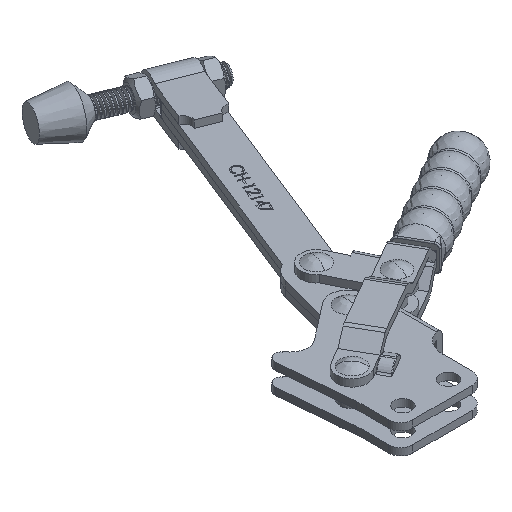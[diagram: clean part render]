
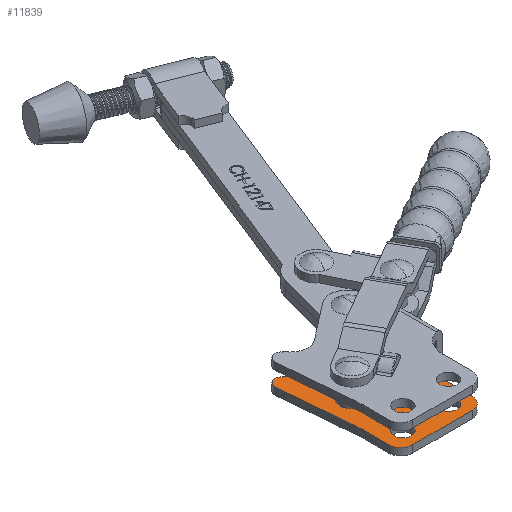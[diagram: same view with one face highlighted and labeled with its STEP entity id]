
A CAD part, isometric view. The second image highlights one B-rep face of the part: STEP entity #11839.
In plain terms, the highlighted planar face has unit normal (0, 0, 1).
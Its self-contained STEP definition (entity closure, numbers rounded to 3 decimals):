
#859=FACE_BOUND('',#2441,.T.);
#860=FACE_BOUND('',#2442,.T.);
#861=FACE_BOUND('',#2443,.T.);
#862=FACE_BOUND('',#2444,.T.);
#863=FACE_BOUND('',#2445,.T.);
#1128=PLANE('',#12845);
#1729=FACE_OUTER_BOUND('',#2440,.T.);
#2440=EDGE_LOOP('',(#10939,#10940,#10941,#10942,#10943,#10944,#10945,#10946,
#10947,#10948,#10949,#10950,#10951,#10952,#10953,#10954));
#2441=EDGE_LOOP('',(#10955,#10956));
#2442=EDGE_LOOP('',(#10957,#10958));
#2443=EDGE_LOOP('',(#10959,#10960));
#2444=EDGE_LOOP('',(#10961,#10962));
#2445=EDGE_LOOP('',(#10963,#10964));
#3369=LINE('',#40777,#4306);
#3378=LINE('',#40819,#4315);
#3382=LINE('',#40828,#4319);
#3384=LINE('',#40834,#4321);
#3386=LINE('',#40838,#4323);
#3388=LINE('',#40842,#4325);
#3390=LINE('',#40846,#4327);
#3391=LINE('',#40850,#4328);
#3392=LINE('',#40852,#4329);
#4306=VECTOR('',#15286,1000.);
#4315=VECTOR('',#15309,1000.);
#4319=VECTOR('',#15319,1000.);
#4321=VECTOR('',#15327,1000.);
#4323=VECTOR('',#15331,1000.);
#4325=VECTOR('',#15335,1000.);
#4327=VECTOR('',#15339,1000.);
#4328=VECTOR('',#15342,1000.);
#4329=VECTOR('',#15345,1000.);
#4619=CIRCLE('',#12749,3.6);
#4620=CIRCLE('',#12750,3.6);
#4627=CIRCLE('',#12759,3.6);
#4628=CIRCLE('',#12760,3.6);
#4629=CIRCLE('',#12762,1.95);
#4630=CIRCLE('',#12763,1.95);
#4633=CIRCLE('',#12767,3.2);
#4634=CIRCLE('',#12768,3.2);
#4637=CIRCLE('',#12772,3.2);
#4638=CIRCLE('',#12773,3.2);
#4655=CIRCLE('',#12795,3.);
#4669=CIRCLE('',#12812,4.);
#4676=CIRCLE('',#12830,9.5);
#4679=CIRCLE('',#12837,7.5);
#4680=CIRCLE('',#12840,7.);
#4681=CIRCLE('',#12846,5.);
#4682=CIRCLE('',#12847,5.);
#5759=VERTEX_POINT('',#40513);
#5760=VERTEX_POINT('',#40515);
#5767=VERTEX_POINT('',#40533);
#5768=VERTEX_POINT('',#40535);
#5769=VERTEX_POINT('',#40539);
#5770=VERTEX_POINT('',#40540);
#5773=VERTEX_POINT('',#40549);
#5774=VERTEX_POINT('',#40550);
#5777=VERTEX_POINT('',#40559);
#5778=VERTEX_POINT('',#40560);
#5797=VERTEX_POINT('',#40608);
#5798=VERTEX_POINT('',#40609);
#5840=VERTEX_POINT('',#40711);
#5841=VERTEX_POINT('',#40712);
#5855=VERTEX_POINT('',#40775);
#5856=VERTEX_POINT('',#40776);
#5859=VERTEX_POINT('',#40794);
#5862=VERTEX_POINT('',#40818);
#5863=VERTEX_POINT('',#40822);
#5864=VERTEX_POINT('',#40826);
#5865=VERTEX_POINT('',#40830);
#5866=VERTEX_POINT('',#40836);
#5867=VERTEX_POINT('',#40840);
#5868=VERTEX_POINT('',#40844);
#5869=VERTEX_POINT('',#40848);
#5870=VERTEX_POINT('',#40849);
#7433=EDGE_CURVE('',#5760,#5759,#4619,.T.);
#7434=EDGE_CURVE('',#5759,#5760,#4620,.T.);
#7443=EDGE_CURVE('',#5768,#5767,#4627,.T.);
#7444=EDGE_CURVE('',#5767,#5768,#4628,.T.);
#7445=EDGE_CURVE('',#5769,#5770,#4629,.T.);
#7446=EDGE_CURVE('',#5770,#5769,#4630,.T.);
#7450=EDGE_CURVE('',#5773,#5774,#4633,.T.);
#7451=EDGE_CURVE('',#5774,#5773,#4634,.T.);
#7455=EDGE_CURVE('',#5777,#5778,#4637,.T.);
#7456=EDGE_CURVE('',#5778,#5777,#4638,.T.);
#7479=EDGE_CURVE('',#5797,#5798,#4655,.T.);
#7524=EDGE_CURVE('',#5840,#5841,#4669,.T.);
#7550=EDGE_CURVE('',#5855,#5856,#3369,.T.);
#7556=EDGE_CURVE('',#5859,#5855,#4676,.T.);
#7564=EDGE_CURVE('',#5862,#5841,#3378,.T.);
#7567=EDGE_CURVE('',#5863,#5862,#4679,.T.);
#7569=EDGE_CURVE('',#5864,#5863,#3382,.T.);
#7571=EDGE_CURVE('',#5865,#5864,#4680,.T.);
#7572=EDGE_CURVE('',#5798,#5865,#3384,.T.);
#7574=EDGE_CURVE('',#5866,#5797,#3386,.T.);
#7576=EDGE_CURVE('',#5867,#5866,#3388,.T.);
#7578=EDGE_CURVE('',#5859,#5868,#3390,.T.);
#7579=EDGE_CURVE('',#5869,#5870,#3391,.T.);
#7580=EDGE_CURVE('',#5869,#5856,#4681,.T.);
#7581=EDGE_CURVE('',#5868,#5840,#3392,.T.);
#7582=EDGE_CURVE('',#5867,#5870,#4682,.T.);
#10939=ORIENTED_EDGE('',*,*,#7579,.F.);
#10940=ORIENTED_EDGE('',*,*,#7580,.T.);
#10941=ORIENTED_EDGE('',*,*,#7550,.F.);
#10942=ORIENTED_EDGE('',*,*,#7556,.F.);
#10943=ORIENTED_EDGE('',*,*,#7578,.T.);
#10944=ORIENTED_EDGE('',*,*,#7581,.T.);
#10945=ORIENTED_EDGE('',*,*,#7524,.T.);
#10946=ORIENTED_EDGE('',*,*,#7564,.F.);
#10947=ORIENTED_EDGE('',*,*,#7567,.F.);
#10948=ORIENTED_EDGE('',*,*,#7569,.F.);
#10949=ORIENTED_EDGE('',*,*,#7571,.F.);
#10950=ORIENTED_EDGE('',*,*,#7572,.F.);
#10951=ORIENTED_EDGE('',*,*,#7479,.F.);
#10952=ORIENTED_EDGE('',*,*,#7574,.F.);
#10953=ORIENTED_EDGE('',*,*,#7576,.F.);
#10954=ORIENTED_EDGE('',*,*,#7582,.T.);
#10955=ORIENTED_EDGE('',*,*,#7445,.T.);
#10956=ORIENTED_EDGE('',*,*,#7446,.T.);
#10957=ORIENTED_EDGE('',*,*,#7450,.T.);
#10958=ORIENTED_EDGE('',*,*,#7451,.T.);
#10959=ORIENTED_EDGE('',*,*,#7455,.T.);
#10960=ORIENTED_EDGE('',*,*,#7456,.T.);
#10961=ORIENTED_EDGE('',*,*,#7433,.T.);
#10962=ORIENTED_EDGE('',*,*,#7434,.T.);
#10963=ORIENTED_EDGE('',*,*,#7443,.T.);
#10964=ORIENTED_EDGE('',*,*,#7444,.T.);
#11839=ADVANCED_FACE('',(#1729,#859,#860,#861,#862,#863),#1128,.F.);
#12749=AXIS2_PLACEMENT_3D('',#40516,#15071,#15072);
#12750=AXIS2_PLACEMENT_3D('',#40517,#15073,#15074);
#12759=AXIS2_PLACEMENT_3D('',#40536,#15093,#15094);
#12760=AXIS2_PLACEMENT_3D('',#40537,#15095,#15096);
#12762=AXIS2_PLACEMENT_3D('',#40541,#15099,#15100);
#12763=AXIS2_PLACEMENT_3D('',#40542,#15101,#15102);
#12767=AXIS2_PLACEMENT_3D('',#40551,#15110,#15111);
#12768=AXIS2_PLACEMENT_3D('',#40552,#15112,#15113);
#12772=AXIS2_PLACEMENT_3D('',#40561,#15121,#15122);
#12773=AXIS2_PLACEMENT_3D('',#40562,#15123,#15124);
#12795=AXIS2_PLACEMENT_3D('',#40610,#15173,#15174);
#12812=AXIS2_PLACEMENT_3D('',#40713,#15234,#15235);
#12830=AXIS2_PLACEMENT_3D('',#40796,#15293,#15294);
#12837=AXIS2_PLACEMENT_3D('',#40824,#15314,#15315);
#12840=AXIS2_PLACEMENT_3D('',#40832,#15323,#15324);
#12845=AXIS2_PLACEMENT_3D('',#40847,#15340,#15341);
#12846=AXIS2_PLACEMENT_3D('',#40851,#15343,#15344);
#12847=AXIS2_PLACEMENT_3D('',#40853,#15346,#15347);
#15071=DIRECTION('center_axis',(0.,0.,-1.));
#15072=DIRECTION('ref_axis',(-1.,0.,0.));
#15073=DIRECTION('center_axis',(0.,0.,-1.));
#15074=DIRECTION('ref_axis',(-1.,0.,0.));
#15093=DIRECTION('center_axis',(0.,0.,-1.));
#15094=DIRECTION('ref_axis',(-1.,0.,0.));
#15095=DIRECTION('center_axis',(0.,0.,-1.));
#15096=DIRECTION('ref_axis',(-1.,0.,0.));
#15099=DIRECTION('center_axis',(0.,0.,-1.));
#15100=DIRECTION('ref_axis',(-1.,0.,0.));
#15101=DIRECTION('center_axis',(0.,0.,-1.));
#15102=DIRECTION('ref_axis',(-1.,0.,0.));
#15110=DIRECTION('center_axis',(0.,0.,-1.));
#15111=DIRECTION('ref_axis',(-1.,0.,0.));
#15112=DIRECTION('center_axis',(0.,0.,-1.));
#15113=DIRECTION('ref_axis',(-1.,0.,0.));
#15121=DIRECTION('center_axis',(0.,0.,-1.));
#15122=DIRECTION('ref_axis',(-1.,0.,0.));
#15123=DIRECTION('center_axis',(0.,0.,-1.));
#15124=DIRECTION('ref_axis',(-1.,0.,0.));
#15173=DIRECTION('center_axis',(0.,0.,-1.));
#15174=DIRECTION('ref_axis',(-1.,0.,0.));
#15234=DIRECTION('center_axis',(0.,0.,-1.));
#15235=DIRECTION('ref_axis',(-1.,0.,0.));
#15286=DIRECTION('',(0.,-1.,0.));
#15293=DIRECTION('center_axis',(0.,0.,1.));
#15294=DIRECTION('ref_axis',(-1.,0.,0.));
#15309=DIRECTION('',(0.,-1.,0.));
#15314=DIRECTION('center_axis',(0.,0.,-1.));
#15315=DIRECTION('ref_axis',(-1.,0.,0.));
#15319=DIRECTION('',(0.792,0.611,0.));
#15323=DIRECTION('center_axis',(0.,0.,1.));
#15324=DIRECTION('ref_axis',(-1.,0.,0.));
#15327=DIRECTION('',(0.677,-0.736,0.));
#15331=DIRECTION('',(-0.09,0.996,0.));
#15335=DIRECTION('',(0.,1.,0.));
#15339=DIRECTION('',(0.,1.,0.));
#15340=DIRECTION('center_axis',(0.,0.,-1.));
#15341=DIRECTION('ref_axis',(-1.,0.,0.));
#15342=DIRECTION('',(-1.,0.,0.));
#15343=DIRECTION('center_axis',(0.,0.,1.));
#15344=DIRECTION('ref_axis',(-1.,0.,0.));
#15345=DIRECTION('',(1.,0.,0.));
#15346=DIRECTION('center_axis',(0.,0.,1.));
#15347=DIRECTION('ref_axis',(-1.,0.,0.));
#40513=CARTESIAN_POINT('',(-30.5,-8.1,3.));
#40515=CARTESIAN_POINT('',(-23.3,-8.1,3.));
#40516=CARTESIAN_POINT('Origin',(-26.9,-8.1,3.));
#40517=CARTESIAN_POINT('Origin',(-26.9,-8.1,3.));
#40533=CARTESIAN_POINT('',(-11.5,-8.1,3.));
#40535=CARTESIAN_POINT('',(-4.3,-8.1,3.));
#40536=CARTESIAN_POINT('Origin',(-7.9,-8.1,3.));
#40537=CARTESIAN_POINT('Origin',(-7.9,-8.1,3.));
#40539=CARTESIAN_POINT('',(-6.55,24.2,3.));
#40540=CARTESIAN_POINT('',(-2.65,24.2,3.));
#40541=CARTESIAN_POINT('Origin',(-4.6,24.2,3.));
#40542=CARTESIAN_POINT('Origin',(-4.6,24.2,3.));
#40549=CARTESIAN_POINT('',(-29.4,13.7,3.));
#40550=CARTESIAN_POINT('',(-23.,13.7,3.));
#40551=CARTESIAN_POINT('Origin',(-26.2,13.7,3.));
#40552=CARTESIAN_POINT('Origin',(-26.2,13.7,3.));
#40559=CARTESIAN_POINT('',(-5.1,39.7,3.));
#40560=CARTESIAN_POINT('',(1.3,39.7,3.));
#40561=CARTESIAN_POINT('Origin',(-1.9,39.7,3.));
#40562=CARTESIAN_POINT('Origin',(-1.9,39.7,3.));
#40608=CARTESIAN_POINT('',(-37.691,34.031,3.));
#40609=CARTESIAN_POINT('',(-32.494,36.33,3.));
#40610=CARTESIAN_POINT('Origin',(-34.703,34.3,3.));
#40711=CARTESIAN_POINT('',(9.6,34.,3.));
#40712=CARTESIAN_POINT('',(5.6,38.,3.));
#40713=CARTESIAN_POINT('Origin',(9.6,38.,3.));
#40775=CARTESIAN_POINT('',(0.,2.5,3.));
#40776=CARTESIAN_POINT('',(0.,-10.2,3.));
#40777=CARTESIAN_POINT('',(0.,0.,3.));
#40794=CARTESIAN_POINT('',(6.6,11.547,3.));
#40796=CARTESIAN_POINT('Origin',(9.5,2.5,3.));
#40818=CARTESIAN_POINT('',(5.6,39.7,3.));
#40819=CARTESIAN_POINT('',(5.6,39.7,3.));
#40822=CARTESIAN_POINT('',(-6.481,45.639,3.));
#40824=CARTESIAN_POINT('Origin',(-1.9,39.7,3.));
#40826=CARTESIAN_POINT('',(-21.625,33.957,3.));
#40828=CARTESIAN_POINT('',(-21.625,33.957,3.));
#40830=CARTESIAN_POINT('',(-31.053,34.763,3.));
#40832=CARTESIAN_POINT('Origin',(-25.9,39.5,3.));
#40834=CARTESIAN_POINT('',(-32.494,36.33,3.));
#40836=CARTESIAN_POINT('',(-34.9,3.,3.));
#40838=CARTESIAN_POINT('',(-34.9,3.,3.));
#40840=CARTESIAN_POINT('',(-34.9,-10.2,3.));
#40842=CARTESIAN_POINT('',(-34.9,0.,3.));
#40844=CARTESIAN_POINT('',(6.6,34.,3.));
#40846=CARTESIAN_POINT('',(6.6,0.,3.));
#40847=CARTESIAN_POINT('Origin',(-37.703,0.,3.));
#40848=CARTESIAN_POINT('',(-5.,-15.2,3.));
#40849=CARTESIAN_POINT('',(-29.9,-15.2,3.));
#40850=CARTESIAN_POINT('',(-34.9,-15.2,3.));
#40851=CARTESIAN_POINT('Origin',(-5.,-10.2,3.));
#40852=CARTESIAN_POINT('',(-2.4,34.,3.));
#40853=CARTESIAN_POINT('Origin',(-29.9,-10.2,3.));
